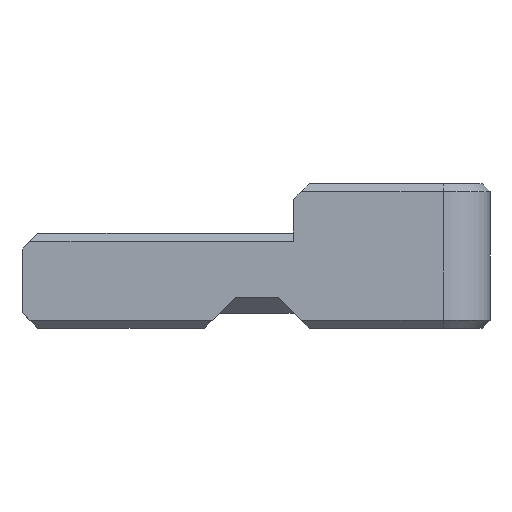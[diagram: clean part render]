
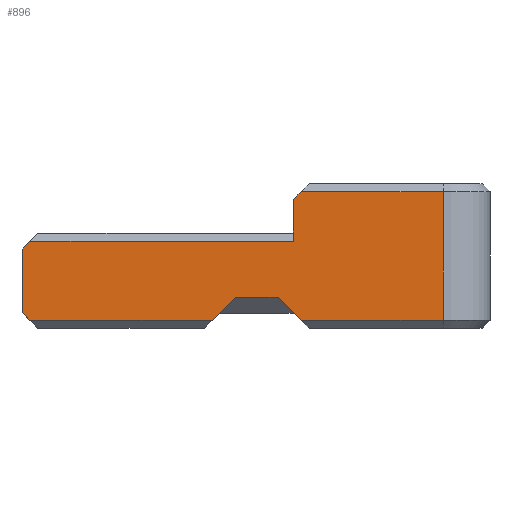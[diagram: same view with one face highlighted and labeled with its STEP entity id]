
A CAD part, top view. The second image highlights one B-rep face of the part: STEP entity #896.
In plain terms, the highlighted planar face has unit normal (0, 0, 1).
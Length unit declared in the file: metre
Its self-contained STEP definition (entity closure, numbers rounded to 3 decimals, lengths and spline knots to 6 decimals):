
#66=ORIENTED_EDGE('',*,*,#332,.T.);
#67=ORIENTED_EDGE('',*,*,#333,.T.);
#68=ORIENTED_EDGE('',*,*,#334,.T.);
#69=ORIENTED_EDGE('',*,*,#335,.T.);
#70=ORIENTED_EDGE('',*,*,#336,.T.);
#71=ORIENTED_EDGE('',*,*,#337,.T.);
#72=ORIENTED_EDGE('',*,*,#338,.T.);
#73=ORIENTED_EDGE('',*,*,#339,.T.);
#74=ORIENTED_EDGE('',*,*,#340,.T.);
#75=ORIENTED_EDGE('',*,*,#341,.F.);
#76=ORIENTED_EDGE('',*,*,#342,.T.);
#77=ORIENTED_EDGE('',*,*,#343,.T.);
#78=ORIENTED_EDGE('',*,*,#344,.F.);
#332=EDGE_CURVE('',#465,#466,#549,.F.);
#333=EDGE_CURVE('',#466,#467,#550,.T.);
#334=EDGE_CURVE('',#467,#468,#551,.T.);
#335=EDGE_CURVE('',#468,#469,#552,.T.);
#336=EDGE_CURVE('',#469,#470,#553,.F.);
#337=EDGE_CURVE('',#470,#471,#554,.T.);
#338=EDGE_CURVE('',#471,#472,#555,.T.);
#339=EDGE_CURVE('',#472,#473,#556,.T.);
#340=EDGE_CURVE('',#473,#474,#557,.T.);
#341=EDGE_CURVE('',#475,#474,#558,.T.);
#342=EDGE_CURVE('',#475,#476,#559,.T.);
#343=EDGE_CURVE('',#476,#477,#560,.T.);
#344=EDGE_CURVE('',#465,#477,#561,.T.);
#465=VERTEX_POINT('',#1319);
#466=VERTEX_POINT('',#1320);
#467=VERTEX_POINT('',#1322);
#468=VERTEX_POINT('',#1324);
#469=VERTEX_POINT('',#1326);
#470=VERTEX_POINT('',#1328);
#471=VERTEX_POINT('',#1330);
#472=VERTEX_POINT('',#1332);
#473=VERTEX_POINT('',#1334);
#474=VERTEX_POINT('',#1336);
#475=VERTEX_POINT('',#1338);
#476=VERTEX_POINT('',#1340);
#477=VERTEX_POINT('',#1342);
#549=LINE('',#1318,#660);
#550=LINE('',#1321,#661);
#551=LINE('',#1323,#662);
#552=LINE('',#1325,#663);
#553=LINE('',#1327,#664);
#554=LINE('',#1329,#665);
#555=LINE('',#1331,#666);
#556=LINE('',#1333,#667);
#557=LINE('',#1335,#668);
#558=LINE('',#1337,#669);
#559=LINE('',#1339,#670);
#560=LINE('',#1341,#671);
#561=LINE('',#1343,#672);
#660=VECTOR('',#1055,1.);
#661=VECTOR('',#1056,1.);
#662=VECTOR('',#1057,1.);
#663=VECTOR('',#1058,1.);
#664=VECTOR('',#1059,1.);
#665=VECTOR('',#1060,1.);
#666=VECTOR('',#1061,1.);
#667=VECTOR('',#1062,1.);
#668=VECTOR('',#1063,1.);
#669=VECTOR('',#1064,1.);
#670=VECTOR('',#1065,1.);
#671=VECTOR('',#1066,1.);
#672=VECTOR('',#1067,1.);
#756=EDGE_LOOP('',(#66,#67,#68,#69,#70,#71,#72,#73,#74,#75,#76,#77,#78));
#808=FACE_BOUND('',#756,.T.);
#859=PLANE('',#960);
#896=ADVANCED_FACE('',(#808),#859,.T.);
#960=AXIS2_PLACEMENT_3D('',#1317,#1053,#1054);
#1053=DIRECTION('',(0.,0.,1.));
#1054=DIRECTION('',(1.,0.,0.));
#1055=DIRECTION('',(-0.707,0.707,0.));
#1056=DIRECTION('',(1.,0.,0.));
#1057=DIRECTION('',(0.707,0.707,0.));
#1058=DIRECTION('',(1.,0.,0.));
#1059=DIRECTION('',(-0.707,0.707,0.));
#1060=DIRECTION('',(1.,0.,0.));
#1061=DIRECTION('',(0.,1.,0.));
#1062=DIRECTION('',(-1.,0.,0.));
#1063=DIRECTION('',(-0.707,-0.707,0.));
#1064=DIRECTION('',(0.,1.,0.));
#1065=DIRECTION('',(-1.,0.,0.));
#1066=DIRECTION('',(-0.707,-0.707,0.));
#1067=DIRECTION('',(0.,1.,0.));
#1317=CARTESIAN_POINT('',(-0.0256,-0.018252,0.0059));
#1318=CARTESIAN_POINT('',(-0.035774,-0.028426,0.0059));
#1319=CARTESIAN_POINT('',(-0.04795,-0.01625,0.0059));
#1320=CARTESIAN_POINT('',(-0.04695,-0.01725,0.0059));
#1321=CARTESIAN_POINT('',(-0.0256,-0.01725,0.0059));
#1322=CARTESIAN_POINT('',(-0.02395,-0.01725,0.0059));
#1323=CARTESIAN_POINT('',(-0.025276,-0.018576,0.0059));
#1324=CARTESIAN_POINT('',(-0.021025,-0.014325,0.0059));
#1325=CARTESIAN_POINT('',(-0.0256,-0.014325,0.0059));
#1326=CARTESIAN_POINT('',(-0.015597,-0.014325,0.0059));
#1327=CARTESIAN_POINT('',(-0.018635,-0.011287,0.0059));
#1328=CARTESIAN_POINT('',(-0.012672,-0.01725,0.0059));
#1329=CARTESIAN_POINT('',(-0.0256,-0.01725,0.0059));
#1330=CARTESIAN_POINT('',(0.00525,-0.01725,0.0059));
#1331=CARTESIAN_POINT('',(0.00525,-0.018252,0.0059));
#1332=CARTESIAN_POINT('',(0.00525,-0.001,0.0059));
#1333=CARTESIAN_POINT('',(-0.0256,-0.001,0.0059));
#1334=CARTESIAN_POINT('',(-0.012672,-0.001,0.0059));
#1335=CARTESIAN_POINT('',(-0.027762,-0.01609,0.0059));
#1336=CARTESIAN_POINT('',(-0.013672,-0.002,0.0059));
#1337=CARTESIAN_POINT('',(-0.013672,-0.018252,0.0059));
#1338=CARTESIAN_POINT('',(-0.013672,-0.007259,0.0059));
#1339=CARTESIAN_POINT('',(-0.04595,-0.007259,0.0059));
#1340=CARTESIAN_POINT('',(-0.04695,-0.007259,0.0059));
#1341=CARTESIAN_POINT('',(-0.041771,-0.002081,0.0059));
#1342=CARTESIAN_POINT('',(-0.04795,-0.008259,0.0059));
#1343=CARTESIAN_POINT('',(-0.04795,-0.018252,0.0059));
